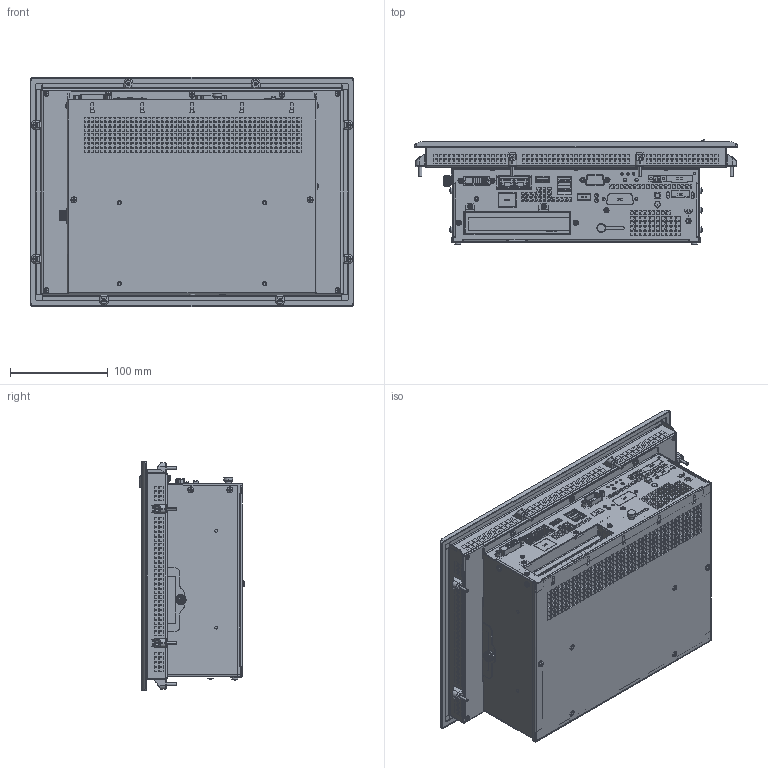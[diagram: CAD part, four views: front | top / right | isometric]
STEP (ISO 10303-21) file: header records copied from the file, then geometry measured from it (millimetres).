
FILE_DESCRIPTION((''),'2;1');
FILE_NAME('C6E22-Panel_121W_RES_S1_','2017-02-27T',('manpal'),(''),'PRO/ENGINEER BY PARAMETRIC TECHNOLOGY CORPORATION, 2013410','PRO/ENGINEER BY PARAMETRIC TECHNOLOGY CORPORATION, 2013410','');
FILE_SCHEMA(('AUTOMOTIVE_DESIGN { 1 0 10303 214 1 1 1 1 }'));
Products named in the file (1): C6E22-Panel_121W_RES_S1_
Bounding box: 331 x 107.92 x 234 mm (x, y, z)
Surface area: 627935.6 mm2 (no closed solid volume)
Topology: 0 solids, 325 shells, 6378 faces, 24932 edges, 18678 vertices
Faces by surface type: plane 5235, cylinder 679, cone 232, bspline 139, torus 45, sphere 42, extrusion 6
Entity records: 287207 total; most frequent: CARTESIAN_POINT 66068, DIRECTION 39200, ORIENTED_EDGE 37118, EDGE_CURVE 24910, VECTOR 20590, LINE 20584, VERTEX_POINT 18678, AXIS2_PLACEMENT_3D 9305
